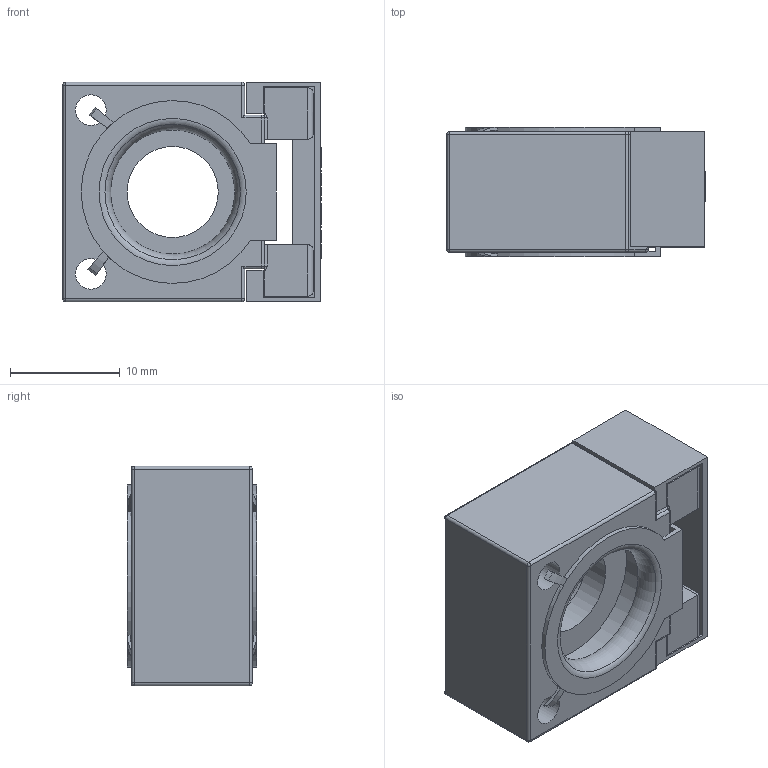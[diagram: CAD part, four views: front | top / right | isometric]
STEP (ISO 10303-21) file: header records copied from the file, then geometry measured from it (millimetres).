
FILE_DESCRIPTION(/* description */ (''),/* implementation_level */ '2;1');
FILE_NAME(/* name */ 'C:\Users\Hani\Desktop\work\ABP\ABP.stp',/* time_stamp */ '2021-10-31T16:00:36-07:00',/* author */ ('Hani'),/* organization */ (''),/* preprocessor_version */ 'ST-DEVELOPER v17',/* originating_system */ 'Autodesk Inventor 2019',/* authorisation */ '');
FILE_SCHEMA (('AUTOMOTIVE_DESIGN { 1 0 10303 214 3 1 1 }'));
Length unit declared in the file: inch
Products named in the file (1): ABP
Bounding box: 23.53 x 11.8 x 20 mm (x, y, z)
Volume: 3230.2 mm3; surface area: 4197.9 mm2
Topology: 1 solids, 1 shells, 280 faces, 744 edges, 482 vertices
Faces by surface type: plane 137, bspline 67, cylinder 41, torus 17, sphere 12, cone 6
Full cylindrical faces by diameter (mm): 2.8 x2, 8.3 x1, 13.68 x2
Entity records: 9422 total; most frequent: CARTESIAN_POINT 2777, ORIENTED_EDGE 1488, DIRECTION 1151, EDGE_CURVE 744, VERTEX_POINT 482, LINE 455, VECTOR 455, AXIS2_PLACEMENT_3D 348
